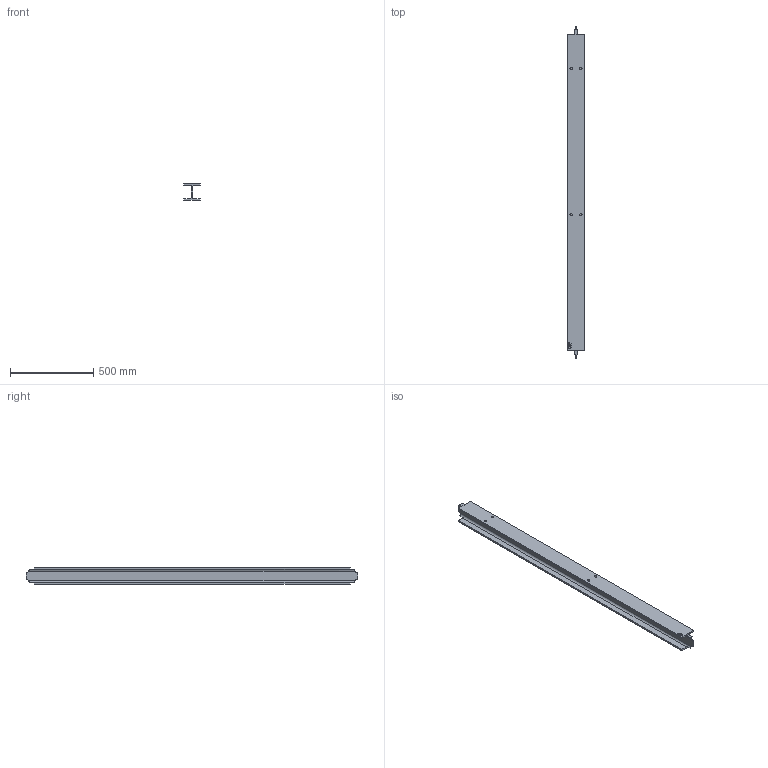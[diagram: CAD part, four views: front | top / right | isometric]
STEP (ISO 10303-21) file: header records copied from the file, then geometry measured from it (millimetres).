
FILE_DESCRIPTION (( 'STEP AP214' ), '1' );
FILE_NAME ('CCJ029-REP.009 - POUTRE DESCENTE ESCALIER.STEP', '2025-10-31T14:33:59', ( '' ), ( '' ), 'SwSTEP 2.0', 'SolidWorks 2021', '' );
FILE_SCHEMA (( 'AUTOMOTIVE_DESIGN' ));
Length unit declared in the file: millimetre
Products named in the file (1): CCJ029-REP.009 - POUTRE DESCENTE ESCALIER
Bounding box: 100 x 1988.5 x 100 mm (x, y, z)
Volume: 4959964.8 mm3; surface area: 1094668.1 mm2
Topology: 1 solids, 1 shells, 74 faces, 198 edges, 132 vertices
Faces by surface type: plane 31, bspline 27, cylinder 16
Entity records: 4430 total; most frequent: CARTESIAN_POINT 2696, ORIENTED_EDGE 396, DIRECTION 264, EDGE_CURVE 198, VERTEX_POINT 132, LINE 104, VECTOR 104, EDGE_LOOP 88
